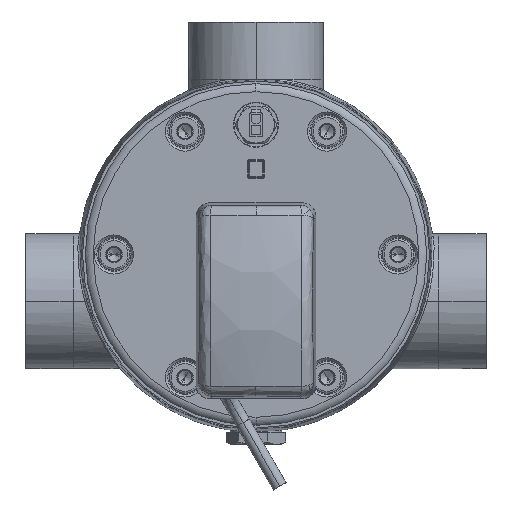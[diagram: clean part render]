
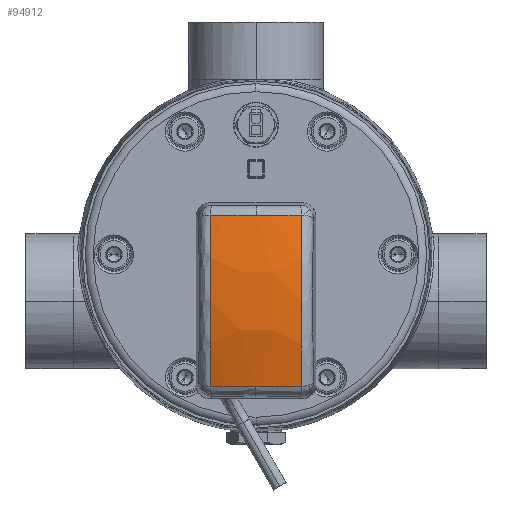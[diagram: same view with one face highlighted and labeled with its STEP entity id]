
A CAD part, top view. The second image highlights one B-rep face of the part: STEP entity #94912.
In plain terms, the highlighted free-form (B-spline) face has degree [3, 3] with [4, 4] control points.
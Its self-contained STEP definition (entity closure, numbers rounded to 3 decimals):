
#4 = CARTESIAN_POINT ( 'NONE',  ( -12.122, 30.159, 20.029 ) ) ;
#124 = CARTESIAN_POINT ( 'NONE',  ( -34.968, 23.537, 18.741 ) ) ;
#533 = CIRCLE ( 'NONE', #99521, 117.316 ) ;
#1890 = CARTESIAN_POINT ( 'NONE',  ( -34.968, 23.537, -18.741 ) ) ;
#3167 = CIRCLE ( 'NONE', #28788, 117.316 ) ;
#4082 = CARTESIAN_POINT ( 'NONE',  ( 43.046, -91.99, 0. ) ) ;
#7306 = CARTESIAN_POINT ( 'NONE',  ( -43.046, -91.99, 0. ) ) ;
#7394 = CARTESIAN_POINT ( 'NONE',  ( -12.122, 32.287, -6.733 ) ) ;
#8084 = CARTESIAN_POINT ( 'NONE',  ( 35.376, 25.396, 6.368 ) ) ;
#10699 = ORIENTED_EDGE ( 'NONE', *, *, #58815, .T. ) ;
#15437 = EDGE_CURVE ( 'NONE', #65232, #35488, #533, .T. ) ;
#15677 = CARTESIAN_POINT ( 'NONE',  ( -43.046, -91.99, 0. ) ) ;
#15825 = CARTESIAN_POINT ( 'NONE',  ( -35.376, 25.396, -6.368 ) ) ;
#15829 = CARTESIAN_POINT ( 'NONE',  ( -34.863, 25.04, -0.304 ) ) ;
#16542 = CARTESIAN_POINT ( 'NONE',  ( 12.122, 30.159, 20.029 ) ) ;
#18426 = CARTESIAN_POINT ( 'NONE',  ( 0., -93.119, -26.898 ) ) ;
#19591 = DIRECTION ( 'NONE',  ( 0., -0.07, -0.998 ) ) ;
#23484 = DIRECTION ( 'NONE',  ( 0.07, 0.998, -0.003 ) ) ;
#24634 = CARTESIAN_POINT ( 'NONE',  ( -35.376, 23.383, -18.945 ) ) ;
#26541 = DIRECTION ( 'NONE',  ( 0.339, 0.939, 0.066 ) ) ;
#27680 = VERTEX_POINT ( 'NONE', #1890 ) ;
#27698 = DIRECTION ( 'NONE',  ( -0.339, 0.939, -0.066 ) ) ;
#28788 = AXIS2_PLACEMENT_3D ( 'NONE', #15677, #71588, #95068 ) ;
#31694 = CARTESIAN_POINT ( 'NONE',  ( 35.376, 25.396, -6.368 ) ) ;
#32752 = CARTESIAN_POINT ( 'NONE',  ( -12.122, 32.287, 6.733 ) ) ;
#34011 = CARTESIAN_POINT ( 'NONE',  ( 34.968, 23.537, 18.741 ) ) ;
#35488 = VERTEX_POINT ( 'NONE', #60544 ) ;
#36113 = DIRECTION ( 'NONE',  ( -0.07, 0.998, 0.003 ) ) ;
#36170 = ORIENTED_EDGE ( 'NONE', *, *, #92916, .T. ) ;
#39403 = CARTESIAN_POINT ( 'NONE',  ( 35.376, 23.383, 18.945 ) ) ;
#39736 = CARTESIAN_POINT ( 'NONE',  ( -35.376, 23.383, 18.945 ) ) ;
#41201 = EDGE_LOOP ( 'NONE', ( #10699, #36170, #57418, #59854, #93411, #90269 ) ) ;
#45636 = EDGE_CURVE ( 'NONE', #69728, #58032, #89460, .T. ) ;
#47835 = CARTESIAN_POINT ( 'NONE',  ( 12.122, 32.287, 6.733 ) ) ;
#56293 = CARTESIAN_POINT ( 'NONE',  ( 35.376, 23.383, -18.945 ) ) ;
#56648 = CARTESIAN_POINT ( 'NONE',  ( 12.122, 32.287, -6.733 ) ) ;
#57418 = ORIENTED_EDGE ( 'NONE', *, *, #45636, .T. ) ;
#57494 = CIRCLE ( 'NONE', #79076, 117.316 ) ;
#58032 = VERTEX_POINT ( 'NONE', #124 ) ;
#58815 = EDGE_CURVE ( 'NONE', #35488, #27680, #61016, .T. ) ;
#59854 = ORIENTED_EDGE ( 'NONE', *, *, #77823, .T. ) ;
#60544 = CARTESIAN_POINT ( 'NONE',  ( 34.968, 23.537, -18.741 ) ) ;
#61016 = CIRCLE ( 'NONE', #99276, 122.057 ) ;
#62579 = DIRECTION ( 'NONE',  ( 0.998, -0.07, 0. ) ) ;
#64016 = CARTESIAN_POINT ( 'NONE',  ( -35.376, 25.396, 6.368 ) ) ;
#65232 = VERTEX_POINT ( 'NONE', #100963 ) ;
#69123 = CIRCLE ( 'NONE', #98845, 122.057 ) ;
#69728 = VERTEX_POINT ( 'NONE', #15829 ) ;
#71588 = DIRECTION ( 'NONE',  ( 0.998, -0.07, 0. ) ) ;
#72052 = FACE_OUTER_BOUND ( 'NONE', #41201, .T. ) ;
#72563 =( BOUNDED_SURFACE ( )  B_SPLINE_SURFACE ( 3, 3, ( 
 ( #39736, #64016, #15825, #24634 ),
 ( #4, #32752, #7394, #79467 ),
 ( #16542, #47835, #56648, #72789 ),
 ( #39403, #8084, #31694, #56293 ) ),
 .UNSPECIFIED., .F., .F., .F. ) 
 B_SPLINE_SURFACE_WITH_KNOTS ( ( 4, 4 ),
 ( 4, 4 ),
 ( 0., 1. ),
 ( 0., 1. ),
 .UNSPECIFIED. ) 
 GEOMETRIC_REPRESENTATION_ITEM ( )  RATIONAL_B_SPLINE_SURFACE ( (
 ( 1., 0.992, 0.992, 1.),
 ( 0.973, 0.965, 0.965, 0.973),
 ( 0.973, 0.965, 0.965, 0.973),
 ( 1., 0.992, 0.992, 1.) ) ) 
 REPRESENTATION_ITEM ( '' )  SURFACE ( )  );
#72789 = CARTESIAN_POINT ( 'NONE',  ( 12.122, 30.159, -20.029 ) ) ;
#72855 = AXIS2_PLACEMENT_3D ( 'NONE', #7306, #62579, #23484 ) ;
#74697 = DIRECTION ( 'NONE',  ( 0., -0.07, 0.998 ) ) ;
#75869 = CARTESIAN_POINT ( 'NONE',  ( 0., -93.119, 26.898 ) ) ;
#77823 = EDGE_CURVE ( 'NONE', #58032, #93087, #69123, .T. ) ;
#79076 = AXIS2_PLACEMENT_3D ( 'NONE', #4082, #91257, #36113 ) ;
#79467 = CARTESIAN_POINT ( 'NONE',  ( -12.122, 30.159, -20.029 ) ) ;
#85385 = CARTESIAN_POINT ( 'NONE',  ( 43.046, -91.99, 0. ) ) ;
#89460 = CIRCLE ( 'NONE', #72855, 117.316 ) ;
#90269 = ORIENTED_EDGE ( 'NONE', *, *, #15437, .T. ) ;
#91257 = DIRECTION ( 'NONE',  ( -0.998, -0.07, 0. ) ) ;
#92916 = EDGE_CURVE ( 'NONE', #27680, #69728, #3167, .T. ) ;
#93087 = VERTEX_POINT ( 'NONE', #34011 ) ;
#93404 = DIRECTION ( 'NONE',  ( -0.998, -0.07, 0. ) ) ;
#93411 = ORIENTED_EDGE ( 'NONE', *, *, #99811, .T. ) ;
#94912 = ADVANCED_FACE ( 'NONE', ( #72052 ), #72563, .T. ) ;
#95068 = DIRECTION ( 'NONE',  ( 0.07, 0.998, -0.003 ) ) ;
#98845 = AXIS2_PLACEMENT_3D ( 'NONE', #75869, #19591, #27698 ) ;
#99276 = AXIS2_PLACEMENT_3D ( 'NONE', #18426, #74697, #26541 ) ;
#99521 = AXIS2_PLACEMENT_3D ( 'NONE', #85385, #93404, #101435 ) ;
#99811 = EDGE_CURVE ( 'NONE', #93087, #65232, #57494, .T. ) ;
#100963 = CARTESIAN_POINT ( 'NONE',  ( 34.863, 25.04, 0.304 ) ) ;
#101435 = DIRECTION ( 'NONE',  ( -0.07, 0.998, 0.003 ) ) ;
